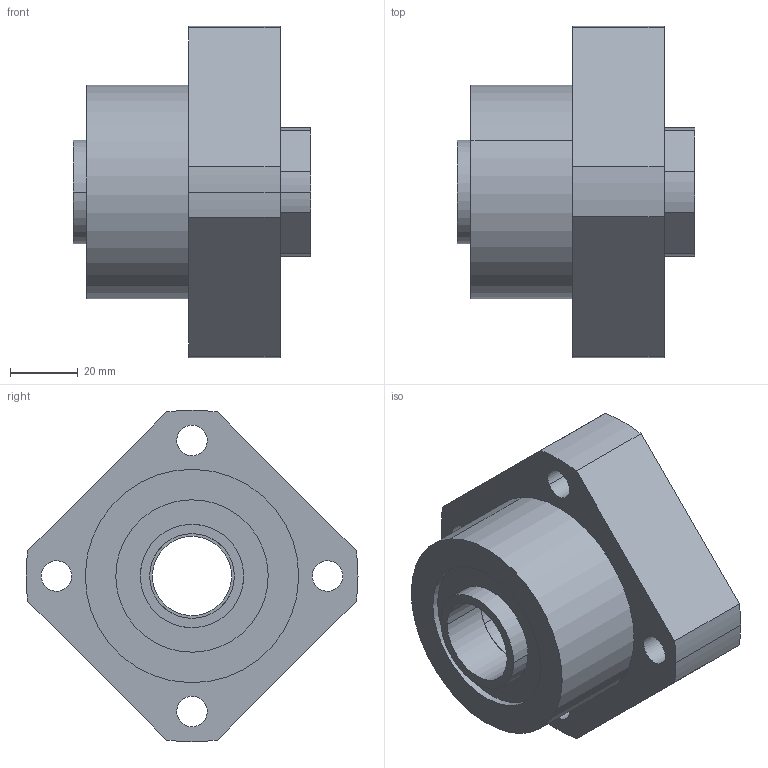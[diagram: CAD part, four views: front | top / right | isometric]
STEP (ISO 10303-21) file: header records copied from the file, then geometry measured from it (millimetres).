
FILE_DESCRIPTION(('CATIA V5 STEP Exchange'),'2;1');
FILE_NAME('D:\서포트 완성도면\FK\FK25T.stp','2014-02-20T11:13:06+00:00',('none'),('none'),'CATIA Version 5 Release 18 GA (IN-10)','CATIA V5 STEP AP203','none');
FILE_SCHEMA(('CONFIG_CONTROL_DESIGN'));
Length unit declared in the file: millimetre
Products named in the file (1): FK25T
Assembly tree (4 placements, depth 2):
  FK25T
    #56
    #1353  x2
    #1540
Bounding box: 70 x 98 x 97.87 mm (x, y, z)
Volume: 214083.8 mm3; surface area: 43236.2 mm2
Topology: 4 solids, 4 shells, 75 faces, 174 edges, 116 vertices
Faces by surface type: cylinder 50, plane 25
Entity records: 1937 total; most frequent: ORIENTED_EDGE 324, CARTESIAN_POINT 318, DIRECTION 258, EDGE_CURVE 162, AXIS2_PLACEMENT_3D 140, VERTEX_POINT 108, CIRCLE 92, EDGE_LOOP 92
